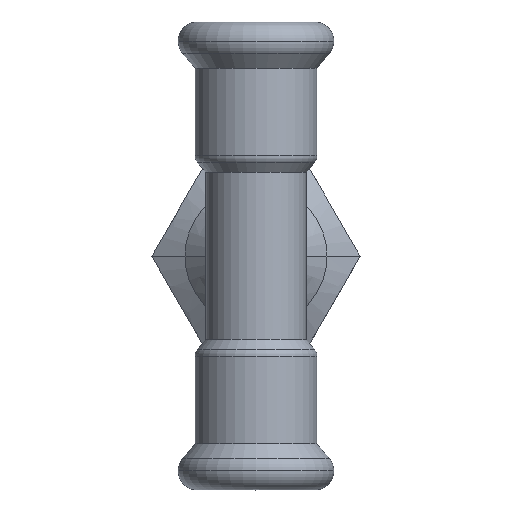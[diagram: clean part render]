
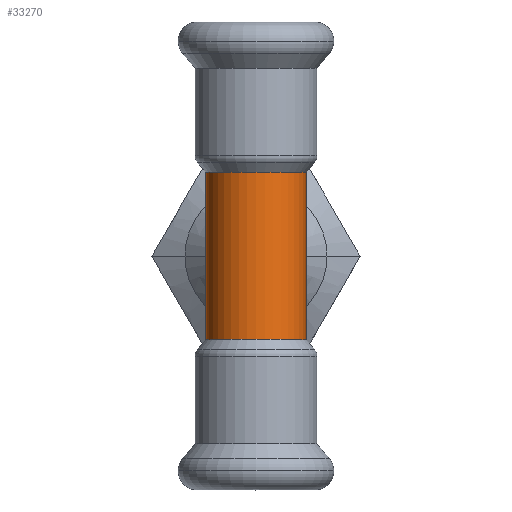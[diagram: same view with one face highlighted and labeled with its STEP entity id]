
A CAD part, top view. The second image highlights one B-rep face of the part: STEP entity #33270.
In plain terms, the highlighted cylindrical face has radius 7.5 mm (diameter 15 mm), a partial arc.
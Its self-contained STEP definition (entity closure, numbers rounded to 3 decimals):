
#26690=CARTESIAN_POINT('',(278.14,65.704,
12.5));
#26700=DIRECTION('',(0.,0.,1.));
#26710=DIRECTION('',(1.,0.,0.));
#26720=AXIS2_PLACEMENT_3D('',#26690,#26700,#26710);
#26730=CYLINDRICAL_SURFACE('',#26720,7.5);
#29890=CARTESIAN_POINT('',(270.64,65.704,0.));
#29900=VERTEX_POINT('',#29890);
#32850=CARTESIAN_POINT('',(285.64,65.704,
12.5));
#32860=DIRECTION('',(0.,0.,1.));
#32870=VECTOR('',#32860,1.);
#32880=LINE('',#32850,#32870);
#32890=CARTESIAN_POINT('',(285.64,65.704,
-12.5));
#32900=VERTEX_POINT('',#32890);
#32910=CARTESIAN_POINT('',(285.64,65.704,
0.));
#32920=VERTEX_POINT('',#32910);
#32930=EDGE_CURVE('',#32900,#32920,#32880,.T.);
#32940=ORIENTED_EDGE('',*,*,#32930,.F.);
#32950=CARTESIAN_POINT('',(285.64,65.704,
12.5));
#32960=VERTEX_POINT('',#32950);
#32970=EDGE_CURVE('',#32920,#32960,#32880,.T.);
#32980=ORIENTED_EDGE('',*,*,#32970,.F.);
#32990=CARTESIAN_POINT('',(278.14,65.704,
12.5));
#33000=DIRECTION('',(0.,0.,1.));
#33010=DIRECTION('',(1.,0.,0.));
#33020=AXIS2_PLACEMENT_3D('',#32990,#33000,#33010);
#33030=CIRCLE('',#33020,7.5);
#33040=CARTESIAN_POINT('',(270.64,65.704,
12.5));
#33050=VERTEX_POINT('',#33040);
#33060=EDGE_CURVE('',#32960,#33050,#33030,.T.);
#33070=ORIENTED_EDGE('',*,*,#33060,.F.);
#33080=CARTESIAN_POINT('',(270.64,65.704,
12.5));
#33090=DIRECTION('',(0.,0.,1.));
#33100=VECTOR('',#33090,1.);
#33110=LINE('',#33080,#33100);
#33120=EDGE_CURVE('',#29900,#33050,#33110,.T.);
#33130=ORIENTED_EDGE('',*,*,#33120,.T.);
#33140=CARTESIAN_POINT('',(270.64,65.704,
-12.5));
#33150=VERTEX_POINT('',#33140);
#33160=EDGE_CURVE('',#33150,#29900,#33110,.T.);
#33170=ORIENTED_EDGE('',*,*,#33160,.T.);
#33180=CARTESIAN_POINT('',(278.14,65.704,
-12.5));
#33190=DIRECTION('',(0.,0.,1.));
#33200=DIRECTION('',(1.,0.,0.));
#33210=AXIS2_PLACEMENT_3D('',#33180,#33190,#33200);
#33220=CIRCLE('',#33210,7.5);
#33230=EDGE_CURVE('',#32900,#33150,#33220,.T.);
#33240=ORIENTED_EDGE('',*,*,#33230,.T.);
#33250=EDGE_LOOP('',(#33240,#33170,#33130,#33070,#32980,#32940));
#33260=FACE_OUTER_BOUND('',#33250,.T.);
#33270=ADVANCED_FACE('',(#33260),#26730,.T.);
